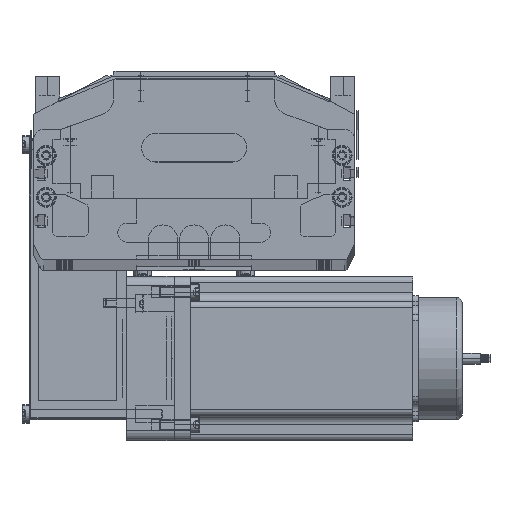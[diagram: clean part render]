
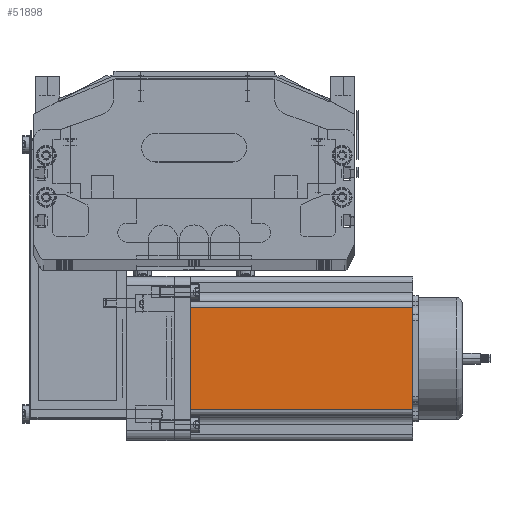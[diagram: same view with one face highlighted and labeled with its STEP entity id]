
A CAD part, top view. The second image highlights one B-rep face of the part: STEP entity #51898.
In plain terms, the highlighted planar face has unit normal (0, 0, 1) as drawn and (0, -1, 0) by its records, which use the part's own axes.
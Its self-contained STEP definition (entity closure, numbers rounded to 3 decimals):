
#51898 = ADVANCED_FACE ( 'NONE', ( #82328 ), #82315, .F. ) ;
#51907 = EDGE_CURVE ( 'NONE', #52095, #51912, #82364, .T. ) ;
#51910 = EDGE_CURVE ( 'NONE', #51912, #52097, #82310, .T. ) ;
#51912 = VERTEX_POINT ( 'NONE', #82370 ) ;
#51913 = ORIENTED_EDGE ( 'NONE', *, *, #51910, .T. ) ;
#51914 = EDGE_CURVE ( 'NONE', #52087, #52097, #82355, .T. ) ;
#51970 = ORIENTED_EDGE ( 'NONE', *, *, #51907, .T. ) ;
#52008 = EDGE_LOOP ( 'NONE', ( #51970, #51913, #52093, #52089 ) ) ;
#52087 = VERTEX_POINT ( 'NONE', #82480 ) ;
#52089 = ORIENTED_EDGE ( 'NONE', *, *, #52104, .T. ) ;
#52093 = ORIENTED_EDGE ( 'NONE', *, *, #51914, .F. ) ;
#52095 = VERTEX_POINT ( 'NONE', #82486 ) ;
#52097 = VERTEX_POINT ( 'NONE', #82472 ) ;
#52104 = EDGE_CURVE ( 'NONE', #52087, #52095, #82462, .T. ) ;
#82305 = DIRECTION ( 'NONE',  ( 0., 0., 1. ) ) ;
#82306 = DIRECTION ( 'NONE',  ( 0., 1., 0. ) ) ;
#82307 = CARTESIAN_POINT ( 'NONE',  ( 0., 0., 116.5 ) ) ;
#82310 = LINE ( 'NONE', #82359, #82358 ) ;
#82312 = AXIS2_PLACEMENT_3D ( 'NONE', #82307, #82306, #82305 ) ;
#82315 = PLANE ( 'NONE',  #82312 ) ;
#82328 = FACE_OUTER_BOUND ( 'NONE', #52008, .T. ) ;
#82349 = DIRECTION ( 'NONE',  ( 1., 0., 0. ) ) ;
#82350 = VECTOR ( 'NONE', #82349, 1000. ) ;
#82354 = CARTESIAN_POINT ( 'NONE',  ( 0., 0., 116.5 ) ) ;
#82355 = LINE ( 'NONE', #82354, #82350 ) ;
#82357 = DIRECTION ( 'NONE',  ( 0., 0., 1. ) ) ;
#82358 = VECTOR ( 'NONE', #82357, 1000. ) ;
#82359 = CARTESIAN_POINT ( 'NONE',  ( 69.74, 0., 116.5 ) ) ;
#82361 = DIRECTION ( 'NONE',  ( 1., 0., 0. ) ) ;
#82362 = VECTOR ( 'NONE', #82361, 1000. ) ;
#82363 = CARTESIAN_POINT ( 'NONE',  ( 0., 0., 0. ) ) ;
#82364 = LINE ( 'NONE', #82363, #82362 ) ;
#82370 = CARTESIAN_POINT ( 'NONE',  ( 69.74, 0., 0. ) ) ;
#82462 = LINE ( 'NONE', #82529, #82527 ) ;
#82472 = CARTESIAN_POINT ( 'NONE',  ( 69.74, 0., 116.5 ) ) ;
#82480 = CARTESIAN_POINT ( 'NONE',  ( 16.16, 0., 116.5 ) ) ;
#82486 = CARTESIAN_POINT ( 'NONE',  ( 16.16, 0., 0. ) ) ;
#82526 = DIRECTION ( 'NONE',  ( 0., 0., -1. ) ) ;
#82527 = VECTOR ( 'NONE', #82526, 1000. ) ;
#82529 = CARTESIAN_POINT ( 'NONE',  ( 16.16, 0., 116.5 ) ) ;
